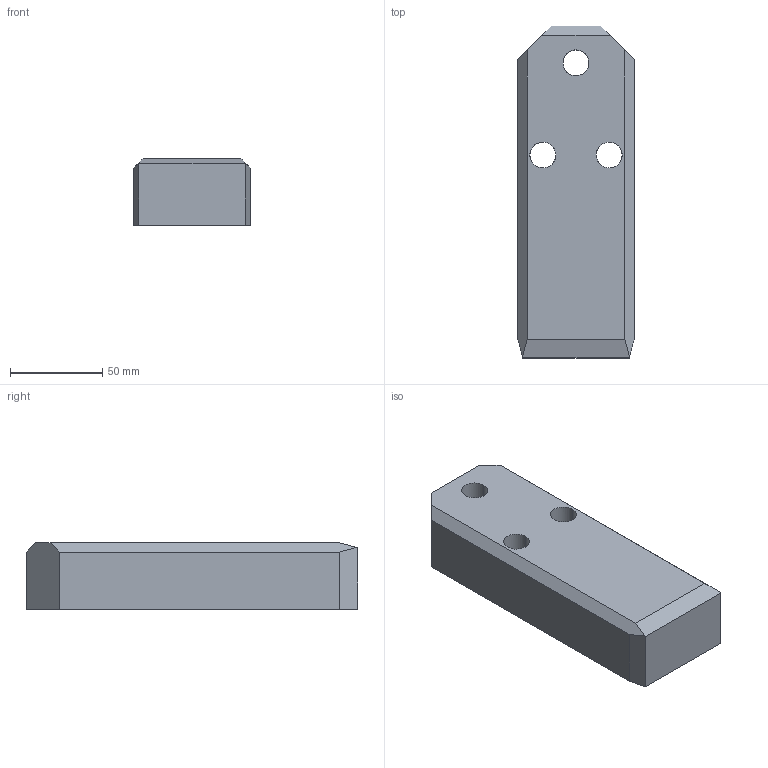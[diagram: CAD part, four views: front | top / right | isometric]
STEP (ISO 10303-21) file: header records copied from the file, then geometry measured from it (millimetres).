
FILE_DESCRIPTION(('CATIA V5 STEP Exchange'),'2;1');
FILE_NAME('C:\Users\borellobunino\Desktop\3D X SITO CF\A927\GSB_OILLESS_G2290506318036\STEP-2.03\A927-63X180X36.stp','2019-07-14T19:35:08+00:00',('none'),('none'),'CATIA Version 5 Release 20 GA (IN-10)','CATIA V5 STEP AP203','none');
FILE_SCHEMA(('CONFIG_CONTROL_DESIGN'));
Length unit declared in the file: millimetre
Products named in the file (1): A927-63X180X36
Bounding box: 63 x 180 x 36 mm (x, y, z)
Volume: 365798.6 mm3; surface area: 41862.7 mm2
Topology: 1 solids, 1 shells, 35 faces, 84 edges, 54 vertices
Faces by surface type: plane 17, cylinder 12, cone 6
Entity records: 1296 total; most frequent: CARTESIAN_POINT 450, ORIENTED_EDGE 168, DIRECTION 142, EDGE_CURVE 84, AXIS2_PLACEMENT_3D 54, VECTOR 54, LINE 54, VERTEX_POINT 54
